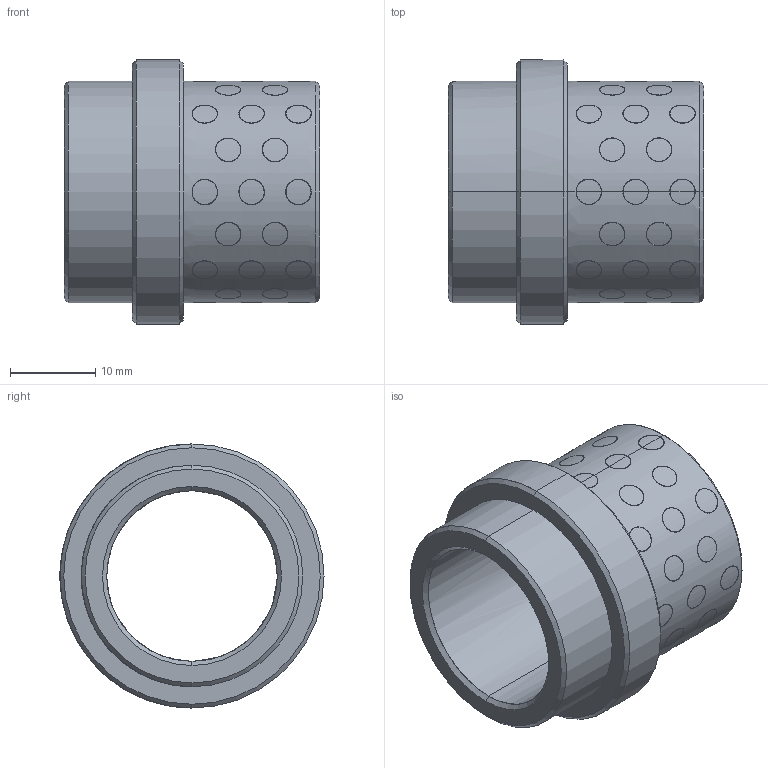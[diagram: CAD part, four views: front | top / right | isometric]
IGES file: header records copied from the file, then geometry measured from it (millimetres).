
Start section: START RECORD GO HERE.
Global section: file name: G31220022.igs; native system: DASSAULT SYSTEMES CATIA V5 R20 - www.3ds.com; preprocessor: CATIA Version 5 Release 20 ; author: r.borello; organization: CFTORINO; date: 20190624.121650; units: millimetre
Bounding box: 30 x 31 x 31 mm (x, y, z)
Surface area: 7414.9 mm2 (no closed solid volume)
Topology: 0 solids, 0 shells, 276 faces, 1200 edges, 1200 vertices
Faces by surface type: revolution 272, plane 4
